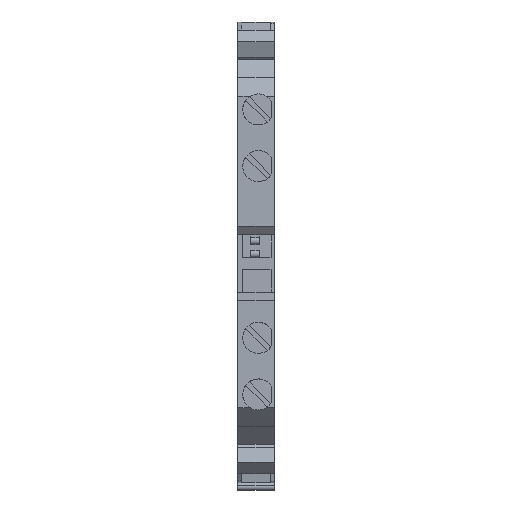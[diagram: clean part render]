
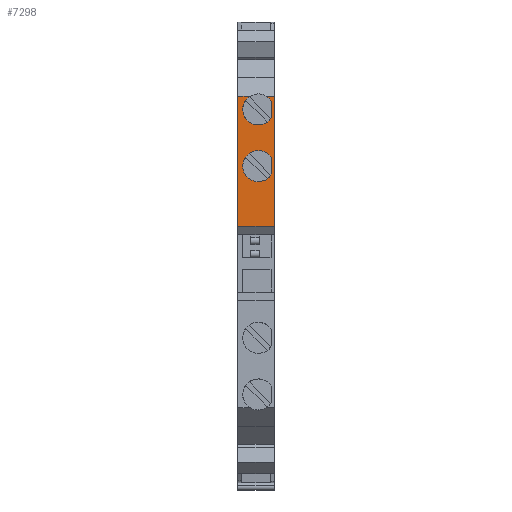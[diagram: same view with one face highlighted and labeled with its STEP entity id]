
A CAD part, top view. The second image highlights one B-rep face of the part: STEP entity #7298.
In plain terms, the highlighted planar face has unit normal (0, 0, 1).
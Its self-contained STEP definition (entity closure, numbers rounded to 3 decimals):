
#385=CARTESIAN_POINT('',(-0.,36.8,46.85));
#386=VERTEX_POINT('',#385);
#393=CARTESIAN_POINT('',(-0.,55.,46.85));
#394=VERTEX_POINT('',#393);
#395=CARTESIAN_POINT('',(-0.,36.8,46.85));
#396=DIRECTION('',(-0.,1.,-0.));
#397=VECTOR('',#396,18.2);
#398=LINE('',#395,#397);
#399=EDGE_CURVE('',#386,#394,#398,.T.);
#722=CARTESIAN_POINT('',(5.15,55.,46.85));
#723=VERTEX_POINT('',#722);
#730=CARTESIAN_POINT('',(5.15,36.8,46.85));
#731=VERTEX_POINT('',#730);
#732=CARTESIAN_POINT('',(5.15,36.8,46.85));
#733=DIRECTION('',(-0.,1.,-0.));
#734=VECTOR('',#733,18.2);
#735=LINE('',#732,#734);
#736=EDGE_CURVE('',#731,#723,#735,.T.);
#2046=CARTESIAN_POINT('',(1.798,55.,46.85));
#2047=VERTEX_POINT('',#2046);
#2048=CARTESIAN_POINT('',(1.798,55.,46.85));
#2049=DIRECTION('',(-1.,-0.,0.));
#2050=VECTOR('',#2049,1.798);
#2051=LINE('',#2048,#2050);
#2052=EDGE_CURVE('',#2047,#394,#2051,.T.);
#2054=CARTESIAN_POINT('',(4.002,55.,46.85));
#2055=VERTEX_POINT('',#2054);
#2062=CARTESIAN_POINT('',(5.15,55.,46.85));
#2063=DIRECTION('',(-1.,-0.,0.));
#2064=VECTOR('',#2063,1.148);
#2065=LINE('',#2062,#2064);
#2066=EDGE_CURVE('',#723,#2055,#2065,.T.);
#2082=CARTESIAN_POINT('',(2.9,50.95,46.85));
#2083=VERTEX_POINT('',#2082);
#2133=CARTESIAN_POINT('',(4.8,54.184,46.85));
#2134=VERTEX_POINT('',#2133);
#2141=CARTESIAN_POINT('',(2.9,53.125,46.85));
#2142=DIRECTION('',(-0.,-0.,-1.));
#2143=DIRECTION('',(-0.,1.,-0.));
#2144=AXIS2_PLACEMENT_3D('',#2141,#2142,#2143);
#2145=CIRCLE('',#2144,2.175);
#2146=EDGE_CURVE('',#2055,#2134,#2145,.T.);
#2149=CARTESIAN_POINT('',(2.9,53.125,46.85));
#2150=DIRECTION('',(-0.,-0.,-1.));
#2151=DIRECTION('',(-0.,1.,-0.));
#2152=AXIS2_PLACEMENT_3D('',#2149,#2150,#2151);
#2153=CIRCLE('',#2152,2.175);
#2154=EDGE_CURVE('',#2083,#2047,#2153,.T.);
#2292=CARTESIAN_POINT('',(4.8,52.066,46.85));
#2293=VERTEX_POINT('',#2292);
#2294=CARTESIAN_POINT('',(4.8,52.066,46.85));
#2295=DIRECTION('',(-0.,1.,-0.));
#2296=VECTOR('',#2295,2.117);
#2297=LINE('',#2294,#2296);
#2298=EDGE_CURVE('',#2293,#2134,#2297,.T.);
#7237=CARTESIAN_POINT('',(5.15,36.8,46.85));
#7238=DIRECTION('',(-1.,-0.,0.));
#7239=VECTOR('',#7238,5.15);
#7240=LINE('',#7237,#7239);
#7241=EDGE_CURVE('',#731,#386,#7240,.T.);
#7248=CARTESIAN_POINT('',(0.,54.379,46.85));
#7249=DIRECTION('',(-0.,-0.,-1.));
#7250=DIRECTION('',(-0.,1.,-0.));
#7251=AXIS2_PLACEMENT_3D('',#7248,#7249,#7250);
#7252=PLANE('',#7251);
#7253=CARTESIAN_POINT('',(4.8,44.141,46.85));
#7254=VERTEX_POINT('',#7253);
#7255=CARTESIAN_POINT('',(2.9,43.025,46.85));
#7256=VERTEX_POINT('',#7255);
#7257=CARTESIAN_POINT('',(2.9,45.2,46.85));
#7258=DIRECTION('',(-0.,-0.,-1.));
#7259=DIRECTION('',(-0.,1.,-0.));
#7260=AXIS2_PLACEMENT_3D('',#7257,#7258,#7259);
#7261=CIRCLE('',#7260,2.175);
#7262=EDGE_CURVE('',#7254,#7256,#7261,.T.);
#7263=ORIENTED_EDGE('',*,*,#7262,.T.);
#7264=CARTESIAN_POINT('',(4.8,46.259,46.85));
#7265=VERTEX_POINT('',#7264);
#7266=CARTESIAN_POINT('',(2.9,45.2,46.85));
#7267=DIRECTION('',(-0.,-0.,-1.));
#7268=DIRECTION('',(-0.,1.,-0.));
#7269=AXIS2_PLACEMENT_3D('',#7266,#7267,#7268);
#7270=CIRCLE('',#7269,2.175);
#7271=EDGE_CURVE('',#7256,#7265,#7270,.T.);
#7272=ORIENTED_EDGE('',*,*,#7271,.T.);
#7273=CARTESIAN_POINT('',(4.8,44.141,46.85));
#7274=DIRECTION('',(-0.,1.,-0.));
#7275=VECTOR('',#7274,2.117);
#7276=LINE('',#7273,#7275);
#7277=EDGE_CURVE('',#7254,#7265,#7276,.T.);
#7278=ORIENTED_EDGE('',*,*,#7277,.F.);
#7279=EDGE_LOOP('',(#7263,#7272,#7278));
#7280=FACE_BOUND('',#7279,.T.);
#7281=ORIENTED_EDGE('',*,*,#736,.T.);
#7282=ORIENTED_EDGE('',*,*,#2066,.T.);
#7283=ORIENTED_EDGE('',*,*,#2146,.T.);
#7284=ORIENTED_EDGE('',*,*,#2298,.F.);
#7285=CARTESIAN_POINT('',(2.9,53.125,46.85));
#7286=DIRECTION('',(-0.,-0.,-1.));
#7287=DIRECTION('',(-0.,1.,-0.));
#7288=AXIS2_PLACEMENT_3D('',#7285,#7286,#7287);
#7289=CIRCLE('',#7288,2.175);
#7290=EDGE_CURVE('',#2293,#2083,#7289,.T.);
#7291=ORIENTED_EDGE('',*,*,#7290,.T.);
#7292=ORIENTED_EDGE('',*,*,#2154,.T.);
#7293=ORIENTED_EDGE('',*,*,#2052,.T.);
#7294=ORIENTED_EDGE('',*,*,#399,.F.);
#7295=ORIENTED_EDGE('',*,*,#7241,.F.);
#7296=EDGE_LOOP('',(#7281,#7282,#7283,#7284,#7291,#7292,#7293,#7294,#7295));
#7297=FACE_BOUND('',#7296,.T.);
#7298=ADVANCED_FACE('',(#7280,#7297),#7252,.F.);
